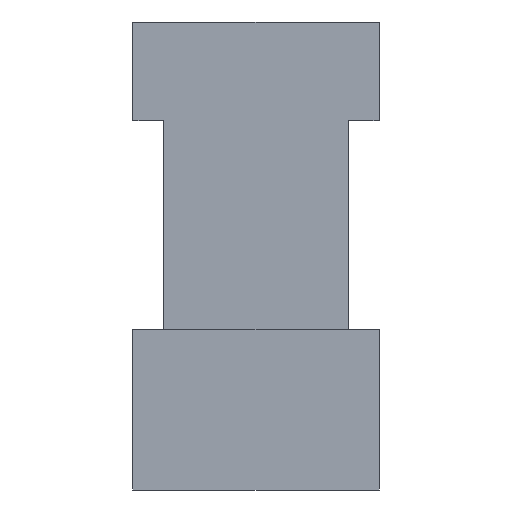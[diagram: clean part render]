
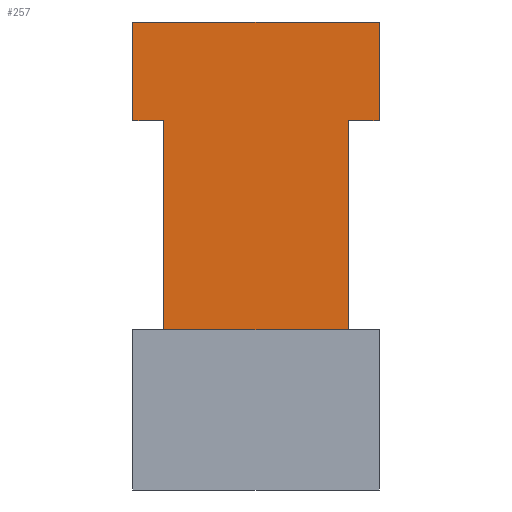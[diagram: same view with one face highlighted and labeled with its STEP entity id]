
A CAD part, front view. The second image highlights one B-rep face of the part: STEP entity #257.
In plain terms, the highlighted planar face has unit normal (0, -1, 0).
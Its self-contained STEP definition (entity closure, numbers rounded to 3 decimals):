
#17 = LINE ( 'NONE', #263, #196 ) ;
#18 = LINE ( 'NONE', #457, #124 ) ;
#19 = DIRECTION ( 'NONE',  ( -1., 0., 0. ) ) ;
#20 = DIRECTION ( 'NONE',  ( 0., 0., 1. ) ) ;
#32 = EDGE_CURVE ( 'NONE', #486, #149, #412, .T. ) ;
#38 = EDGE_CURVE ( 'NONE', #64, #256, #18, .T. ) ;
#43 = VECTOR ( 'NONE', #177, 1000. ) ;
#55 = EDGE_LOOP ( 'NONE', ( #334, #428, #301, #89, #106, #464, #195, #207 ) ) ;
#64 = VERTEX_POINT ( 'NONE', #563 ) ;
#71 = LINE ( 'NONE', #601, #525 ) ;
#85 = CARTESIAN_POINT ( 'NONE',  ( 10., 0., -8. ) ) ;
#89 = ORIENTED_EDGE ( 'NONE', *, *, #38, .F. ) ;
#90 = DIRECTION ( 'NONE',  ( -1., 0., 0. ) ) ;
#92 = FACE_OUTER_BOUND ( 'NONE', #55, .T. ) ;
#99 = CARTESIAN_POINT ( 'NONE',  ( 10., 0., -8. ) ) ;
#106 = ORIENTED_EDGE ( 'NONE', *, *, #441, .F. ) ;
#113 = VECTOR ( 'NONE', #521, 1000. ) ;
#117 = CARTESIAN_POINT ( 'NONE',  ( 7.5, 0., -8. ) ) ;
#124 = VECTOR ( 'NONE', #19, 1000. ) ;
#128 = VERTEX_POINT ( 'NONE', #117 ) ;
#143 = EDGE_CURVE ( 'NONE', #504, #486, #411, .T. ) ;
#148 = CARTESIAN_POINT ( 'NONE',  ( -7.5, 0., -8. ) ) ;
#149 = VERTEX_POINT ( 'NONE', #314 ) ;
#154 = EDGE_CURVE ( 'NONE', #284, #198, #512, .T. ) ;
#159 = DIRECTION ( 'NONE',  ( -1., 0., 0. ) ) ;
#177 = DIRECTION ( 'NONE',  ( 0., 0., 1. ) ) ;
#184 = CARTESIAN_POINT ( 'NONE',  ( 10., 0., -8. ) ) ;
#191 = CARTESIAN_POINT ( 'NONE',  ( -7.5, 0., -8. ) ) ;
#195 = ORIENTED_EDGE ( 'NONE', *, *, #154, .T. ) ;
#196 = VECTOR ( 'NONE', #159, 1000. ) ;
#198 = VERTEX_POINT ( 'NONE', #423 ) ;
#207 = ORIENTED_EDGE ( 'NONE', *, *, #344, .T. ) ;
#208 = EDGE_CURVE ( 'NONE', #504, #256, #528, .T. ) ;
#225 = VECTOR ( 'NONE', #90, 1000. ) ;
#233 = EDGE_CURVE ( 'NONE', #284, #128, #328, .T. ) ;
#236 = VECTOR ( 'NONE', #20, 1000. ) ;
#256 = VERTEX_POINT ( 'NONE', #471 ) ;
#257 = ADVANCED_FACE ( 'NONE', ( #92 ), #483, .T. ) ;
#263 = CARTESIAN_POINT ( 'NONE',  ( 10., 0., 0. ) ) ;
#284 = VERTEX_POINT ( 'NONE', #335 ) ;
#301 = ORIENTED_EDGE ( 'NONE', *, *, #208, .T. ) ;
#314 = CARTESIAN_POINT ( 'NONE',  ( -10., 0., 0. ) ) ;
#328 = LINE ( 'NONE', #184, #225 ) ;
#334 = ORIENTED_EDGE ( 'NONE', *, *, #32, .F. ) ;
#335 = CARTESIAN_POINT ( 'NONE',  ( 10., 0., -8. ) ) ;
#344 = EDGE_CURVE ( 'NONE', #198, #149, #17, .T. ) ;
#352 = DIRECTION ( 'NONE',  ( 0., 0., -1. ) ) ;
#353 = VECTOR ( 'NONE', #524, 1000. ) ;
#399 = AXIS2_PLACEMENT_3D ( 'NONE', #99, #426, #629 ) ;
#406 = CARTESIAN_POINT ( 'NONE',  ( 10., 0., -8. ) ) ;
#411 = LINE ( 'NONE', #406, #113 ) ;
#412 = LINE ( 'NONE', #517, #43 ) ;
#423 = CARTESIAN_POINT ( 'NONE',  ( 10., 0., 0. ) ) ;
#426 = DIRECTION ( 'NONE',  ( 0., -1., 0. ) ) ;
#428 = ORIENTED_EDGE ( 'NONE', *, *, #143, .F. ) ;
#441 = EDGE_CURVE ( 'NONE', #128, #64, #71, .T. ) ;
#457 = CARTESIAN_POINT ( 'NONE',  ( 7.5, 0., -25. ) ) ;
#464 = ORIENTED_EDGE ( 'NONE', *, *, #233, .F. ) ;
#471 = CARTESIAN_POINT ( 'NONE',  ( -7.5, 0., -25. ) ) ;
#483 = PLANE ( 'NONE',  #399 ) ;
#485 = CARTESIAN_POINT ( 'NONE',  ( -10., 0., -8. ) ) ;
#486 = VERTEX_POINT ( 'NONE', #485 ) ;
#504 = VERTEX_POINT ( 'NONE', #148 ) ;
#512 = LINE ( 'NONE', #85, #236 ) ;
#517 = CARTESIAN_POINT ( 'NONE',  ( -10., 0., -8. ) ) ;
#521 = DIRECTION ( 'NONE',  ( -1., 0., 0. ) ) ;
#524 = DIRECTION ( 'NONE',  ( 0., 0., -1. ) ) ;
#525 = VECTOR ( 'NONE', #352, 1000. ) ;
#528 = LINE ( 'NONE', #191, #353 ) ;
#563 = CARTESIAN_POINT ( 'NONE',  ( 7.5, 0., -25. ) ) ;
#601 = CARTESIAN_POINT ( 'NONE',  ( 7.5, 0., -8. ) ) ;
#629 = DIRECTION ( 'NONE',  ( 0., 0., -1. ) ) ;
